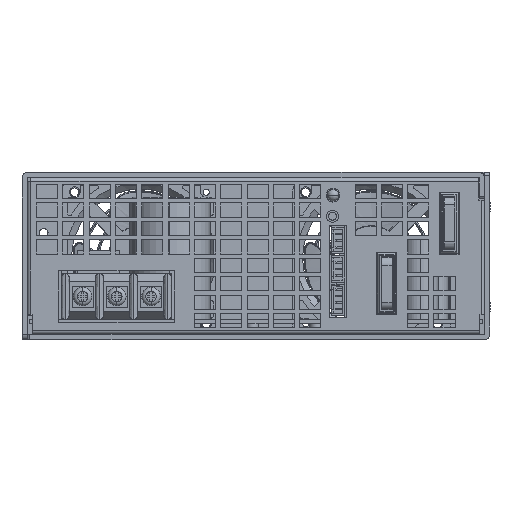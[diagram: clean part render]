
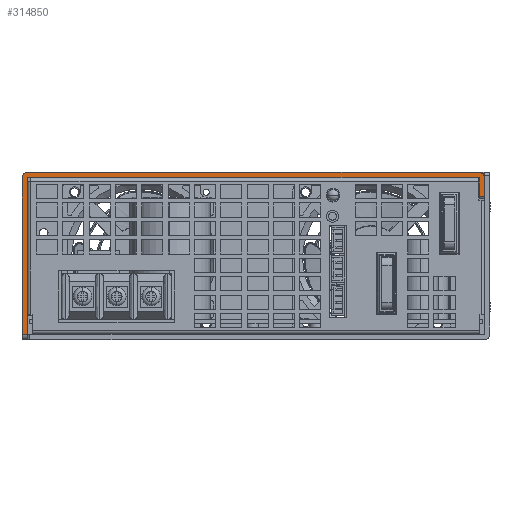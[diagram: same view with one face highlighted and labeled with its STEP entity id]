
A CAD part, left-side view. The second image highlights one B-rep face of the part: STEP entity #314850.
In plain terms, the highlighted planar face has unit normal (-1, 0, 0).
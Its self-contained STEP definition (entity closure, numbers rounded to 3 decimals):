
#281870=CARTESIAN_POINT('',(-2095.796,-128.792,63.4));
#281880=VERTEX_POINT('',#281870);
#282230=CARTESIAN_POINT('',(-2095.796,-128.792,4.));
#282240=VERTEX_POINT('',#282230);
#282270=CARTESIAN_POINT('',(-2095.796,-128.792,63.5));
#282280=DIRECTION('',(0.,0.,-1.));
#282290=VECTOR('',#282280,1.);
#282300=LINE('',#282270,#282290);
#282310=EDGE_CURVE('',#281880,#282240,#282300,.T.);
#282560=CARTESIAN_POINT('',(-2095.796,-128.892,63.4));
#282570=DIRECTION('',(-1.,0.,0.));
#282580=DIRECTION('',(0.,0.,1.));
#282590=AXIS2_PLACEMENT_3D('',#282560,#282570,#282580);
#282600=CIRCLE('',#282590,0.1);
#282610=CARTESIAN_POINT('',(-2095.796,-128.892,63.5));
#282620=VERTEX_POINT('',#282610);
#282630=EDGE_CURVE('',#282620,#281880,#282600,.T.);
#289210=CARTESIAN_POINT('',(-2095.796,-128.892,65.5));
#289220=VERTEX_POINT('',#289210);
#289250=CARTESIAN_POINT('',(-2095.796,-128.892,63.4));
#289260=DIRECTION('',(-1.,0.,0.));
#289270=DIRECTION('',(0.,0.,1.));
#289280=AXIS2_PLACEMENT_3D('',#289250,#289260,#289270);
#289290=CIRCLE('',#289280,2.1);
#289300=CARTESIAN_POINT('',(-2095.796,-126.792,63.4));
#289310=VERTEX_POINT('',#289300);
#289320=EDGE_CURVE('',#289220,#289310,#289290,.T.);
#298900=CARTESIAN_POINT('',(-2095.796,-126.792,4.));
#298910=VERTEX_POINT('',#298900);
#298980=CARTESIAN_POINT('',(-2095.796,-126.792,63.5));
#298990=DIRECTION('',(0.,0.,-1.));
#299000=VECTOR('',#298990,1.);
#299010=LINE('',#298980,#299000);
#299020=EDGE_CURVE('',#289310,#298910,#299010,.T.);
#303560=CARTESIAN_POINT('',(-2095.796,-304.592,63.5));
#303570=DIRECTION('',(0.,1.,0.));
#303580=VECTOR('',#303570,1.);
#303590=LINE('',#303560,#303580);
#303600=CARTESIAN_POINT('',(-2095.796,-300.492,63.5));
#303610=VERTEX_POINT('',#303600);
#303620=EDGE_CURVE('',#303610,#282620,#303590,.T.);
#307540=CARTESIAN_POINT('',(-2095.796,-300.492,63.4));
#307550=DIRECTION('',(-1.,0.,0.));
#307560=DIRECTION('',(0.,-1.,0.));
#307570=AXIS2_PLACEMENT_3D('',#307540,#307550,#307560);
#307580=CIRCLE('',#307570,0.1);
#307590=CARTESIAN_POINT('',(-2095.796,-300.592,63.4));
#307600=VERTEX_POINT('',#307590);
#307610=EDGE_CURVE('',#307600,#303610,#307580,.T.);
#308570=CARTESIAN_POINT('',(-2095.796,-300.592,
59.693));
#308580=DIRECTION('',(0.,0.,1.));
#308590=VECTOR('',#308580,1.);
#308600=LINE('',#308570,#308590);
#308610=CARTESIAN_POINT('',(-2095.796,-300.592,56.5));
#308620=VERTEX_POINT('',#308610);
#308630=EDGE_CURVE('',#308620,#307600,#308600,.T.);
#312530=CARTESIAN_POINT('',(-2095.796,-302.592,56.5));
#312540=VERTEX_POINT('',#312530);
#312570=CARTESIAN_POINT('',(-2095.796,-302.592,
235.493));
#312580=DIRECTION('',(0.,0.,1.));
#312590=VECTOR('',#312580,1.);
#312600=LINE('',#312570,#312590);
#312610=CARTESIAN_POINT('',(-2095.796,-302.592,63.4));
#312620=VERTEX_POINT('',#312610);
#312630=EDGE_CURVE('',#312540,#312620,#312600,.T.);
#313150=CARTESIAN_POINT('',(-2095.796,-300.492,65.5));
#313160=VERTEX_POINT('',#313150);
#313190=CARTESIAN_POINT('',(-2095.796,-128.792,65.5));
#313200=DIRECTION('',(0.,1.,0.));
#313210=VECTOR('',#313200,1.);
#313220=LINE('',#313190,#313210);
#313230=EDGE_CURVE('',#313160,#289220,#313220,.T.);
#314450=CARTESIAN_POINT('',(-2095.796,-300.492,63.4));
#314460=DIRECTION('',(-1.,0.,0.));
#314470=DIRECTION('',(0.,-1.,0.));
#314480=AXIS2_PLACEMENT_3D('',#314450,#314460,#314470);
#314490=CIRCLE('',#314480,2.1);
#314500=EDGE_CURVE('',#312620,#313160,#314490,.T.);
#314560=CARTESIAN_POINT('',(-2095.796,-300.492,63.4));
#314570=DIRECTION('',(-1.,0.,0.));
#314580=DIRECTION('',(0.,1.,0.));
#314590=AXIS2_PLACEMENT_3D('',#314560,#314570,#314580);
#314600=PLANE('',#314590);
#314610=ORIENTED_EDGE('',*,*,#299020,.T.);
#314620=ORIENTED_EDGE('',*,*,#289320,.T.);
#314630=ORIENTED_EDGE('',*,*,#313230,.T.);
#314640=ORIENTED_EDGE('',*,*,#314500,.T.);
#314650=ORIENTED_EDGE('',*,*,#312630,.T.);
#314660=CARTESIAN_POINT('',(-2095.796,-290.441,56.5));
#314670=DIRECTION('',(0.,1.,0.));
#314680=VECTOR('',#314670,1.);
#314690=LINE('',#314660,#314680);
#314700=EDGE_CURVE('',#312540,#308620,#314690,.T.);
#314710=ORIENTED_EDGE('',*,*,#314700,.F.);
#314720=ORIENTED_EDGE('',*,*,#308630,.F.);
#314730=ORIENTED_EDGE('',*,*,#307610,.F.);
#314740=ORIENTED_EDGE('',*,*,#303620,.F.);
#314750=ORIENTED_EDGE('',*,*,#282630,.F.);
#314760=ORIENTED_EDGE('',*,*,#282310,.F.);
#314770=CARTESIAN_POINT('',(-2095.796,-290.441,4.));
#314780=DIRECTION('',(0.,-1.,0.));
#314790=VECTOR('',#314780,1.);
#314800=LINE('',#314770,#314790);
#314810=EDGE_CURVE('',#298910,#282240,#314800,.T.);
#314820=ORIENTED_EDGE('',*,*,#314810,.T.);
#314830=EDGE_LOOP('',(#314820,#314760,#314750,#314740,#314730,#314720,
#314710,#314650,#314640,#314630,#314620,#314610));
#314840=FACE_OUTER_BOUND('',#314830,.T.);
#314850=ADVANCED_FACE('',(#314840),#314600,.T.);
